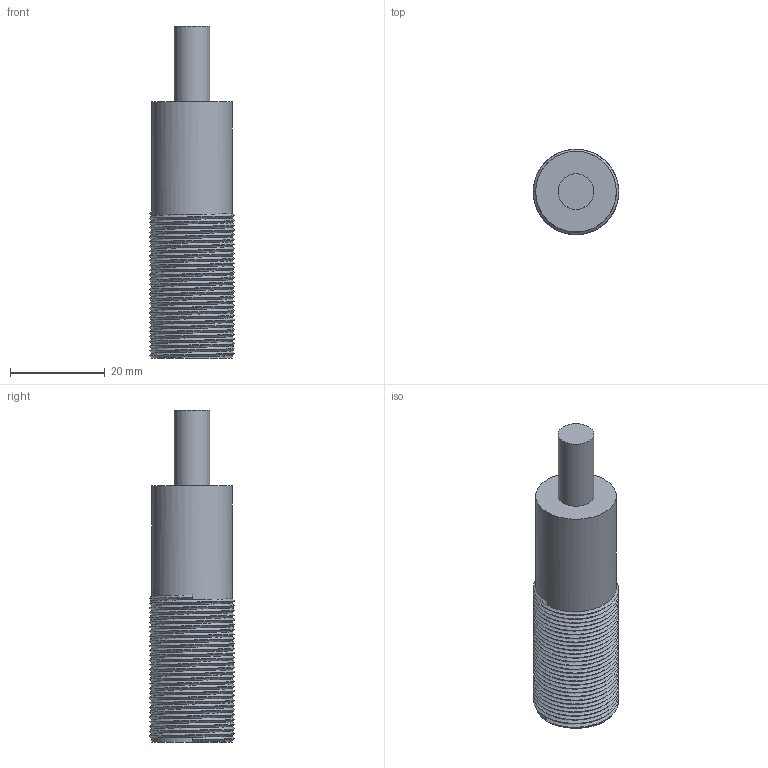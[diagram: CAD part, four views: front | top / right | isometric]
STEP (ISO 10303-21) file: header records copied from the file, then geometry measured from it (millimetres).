
FILE_DESCRIPTION(/* description */ ('Alibre Inc.'),/* implementation_level */ '2;1');
FILE_NAME(/* name */ 'export0',/* time_stamp */ '2013-08-15T10:49:54-06:00',/* author */ (''),/* organization */ (''),/* preprocessor_version */ 'ST-DEVELOPER v14',/* originating_system */ 'Alibre',/* authorisation */ '');
FILE_SCHEMA (('ALIBRE_SCHEMA','CONFIG_CONTROL_DESIGN'));
Length unit declared in the file: centimetre
Products named in the file (2): ID_1
Bounding box: 17.99 x 17.99 x 70 mm (x, y, z)
Volume: 13364.7 mm3; surface area: 4440.1 mm2
Topology: 1 solids, 1 shells, 38 faces, 105 edges, 70 vertices
Faces by surface type: cylinder 31, plane 5, bspline 2
Full cylindrical faces by diameter (mm): 7.5 x1, 17 x30
Entity records: 5017 total; most frequent: CARTESIAN_POINT 3874, INTEGERVALUEPAIR 103, REALVALUEPAIR 74, DIRECTION 67, STRINGVALUEPAIR 47, BOOLEANVALUEPAIR 39, CONSTRAINTPAIRUV 31, ORIENTED_EDGE 26
